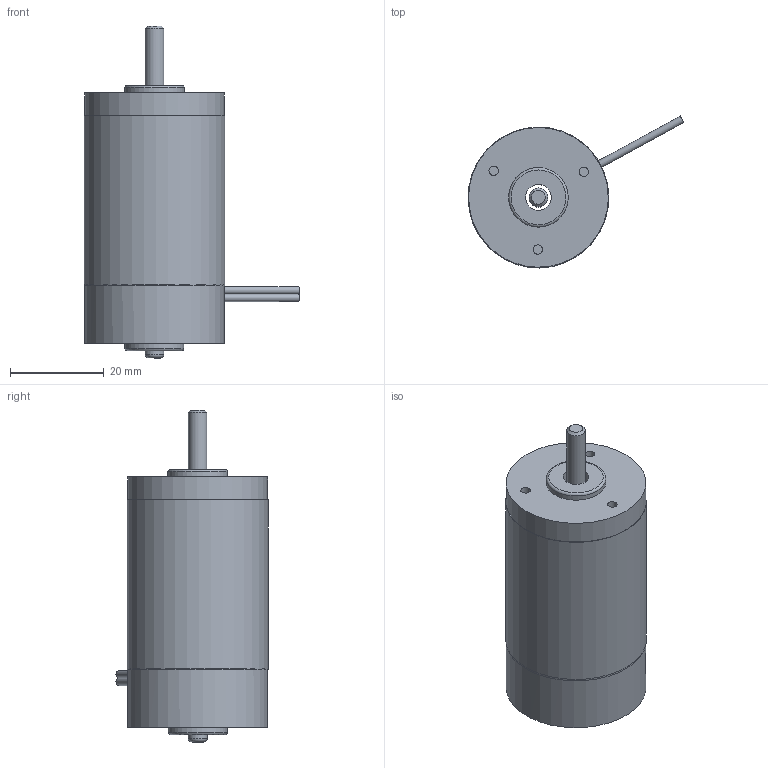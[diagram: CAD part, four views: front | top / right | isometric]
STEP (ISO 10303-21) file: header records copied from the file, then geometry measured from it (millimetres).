
FILE_DESCRIPTION((''),'2;1');
FILE_NAME('D:\연구개발부2팀 1파트\10_진행업무\3D\RM3_SERIES\RM33ㅁBL.stp','2014-06-23T09:59:44',('song'),(''),'Autodesk Inventor 2011','Autodesk Inventor 2011','');
FILE_SCHEMA(('AUTOMOTIVE_DESIGN { 1 0 10303 214 1 1 1 1 }'));
Length unit declared in the file: millimetre
Products named in the file (7): RM33ㅁBL; RM33_SHAFT; RM3_PIPE_HOUSING_30X36.2; AS 1427 Z - 미터 M2.5 x 8; RM3_BRUSH_LEAD_WIRE_TYPE; RM3_front; RM3_REAR_HOUSING
Assembly tree (7 placements, depth 2):
  RM33ㅁBL
    RM33_SHAFT
    RM3_PIPE_HOUSING_30X36.2
    AS 1427 Z - 미터 M2.5 x 8  x2
    RM3_BRUSH_LEAD_WIRE_TYPE
    RM3_front
    RM3_REAR_HOUSING
Bounding box: 46.01 x 32.42 x 70.81 mm (x, y, z)
Volume: 25634.5 mm3; surface area: 13562.1 mm2
Topology: 7 solids, 8 shells, 137 faces, 324 edges, 207 vertices
Faces by surface type: plane 62, cone 35, cylinder 29, torus 11
Full cylindrical faces by diameter (mm): 1.6 x2, 1.8 x3, 2 x3, 2.224 x2, 2.5 x2, 2.6 x2, 3.969 x1, 4 x1, 4.4 x2, 5.5 x1, 6.5 x1, 12.6 x1, 12.7 x1, 17.855 x1, 27.2 x1, 29.8 x2, 30 x1
Entity records: 2916 total; most frequent: CARTESIAN_POINT 658, DIRECTION 452, ORIENTED_EDGE 356, AXIS2_PLACEMENT_3D 200, EDGE_CURVE 178, EDGE_LOOP 155, VERTEX_POINT 130, FACE_OUTER_BOUND 96
